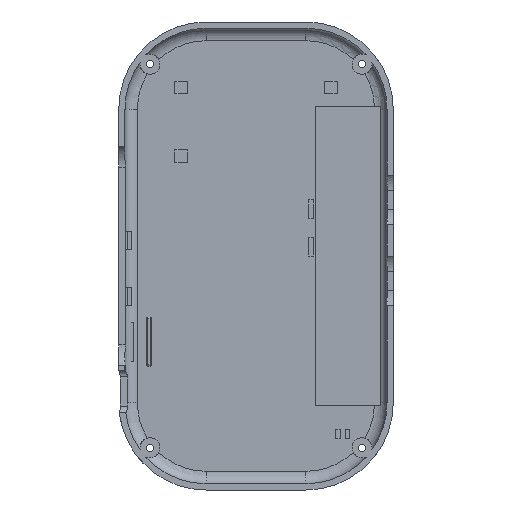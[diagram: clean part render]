
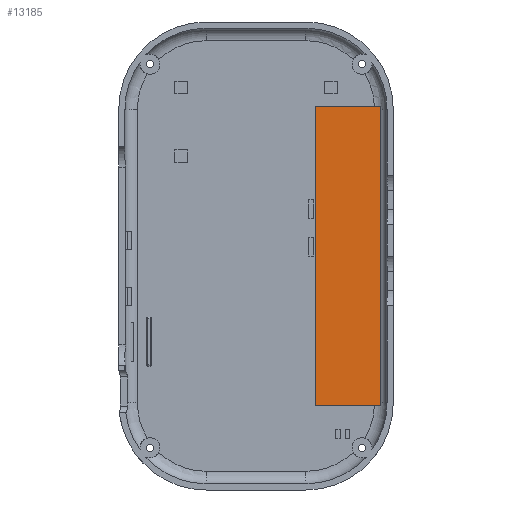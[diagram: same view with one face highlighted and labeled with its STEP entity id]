
A CAD part, front view. The second image highlights one B-rep face of the part: STEP entity #13185.
In plain terms, the highlighted planar face has unit normal (0, -1, 0).
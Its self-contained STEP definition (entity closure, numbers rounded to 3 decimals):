
#3919 = PLANE('',#3920);
#3920 = AXIS2_PLACEMENT_3D('',#3921,#3922,#3923);
#3921 = CARTESIAN_POINT('',(19.,10.5,48.));
#3922 = DIRECTION('',(0.,0.,1.));
#3923 = DIRECTION('',(1.,0.,-0.));
#3947 = PLANE('',#3948);
#3948 = AXIS2_PLACEMENT_3D('',#3949,#3950,#3951);
#3949 = CARTESIAN_POINT('',(19.,10.5,-48.));
#3950 = DIRECTION('',(1.,0.,0.));
#3951 = DIRECTION('',(0.,0.,1.));
#3975 = PLANE('',#3976);
#3976 = AXIS2_PLACEMENT_3D('',#3977,#3978,#3979);
#3977 = CARTESIAN_POINT('',(19.,10.5,-48.));
#3978 = DIRECTION('',(0.,0.,1.));
#3979 = DIRECTION('',(1.,0.,-0.));
#8897 = PLANE('',#8898);
#8898 = AXIS2_PLACEMENT_3D('',#8899,#8900,#8901);
#8899 = CARTESIAN_POINT('',(40.,10.5,-48.));
#8900 = DIRECTION('',(1.,0.,0.));
#8901 = DIRECTION('',(0.,0.,1.));
#8944 = VERTEX_POINT('',#8945);
#8945 = CARTESIAN_POINT('',(19.,10.5,-48.));
#8966 = EDGE_CURVE('',#8944,#8967,#8969,.T.);
#8967 = VERTEX_POINT('',#8968);
#8968 = CARTESIAN_POINT('',(40.,10.5,-48.));
#8969 = SURFACE_CURVE('',#8970,(#8974,#8981),.PCURVE_S1.);
#8970 = LINE('',#8971,#8972);
#8971 = CARTESIAN_POINT('',(19.,10.5,-48.));
#8972 = VECTOR('',#8973,1.);
#8973 = DIRECTION('',(1.,0.,0.));
#8974 = PCURVE('',#3975,#8975);
#8975 = DEFINITIONAL_REPRESENTATION('',(#8976),#8980);
#8976 = LINE('',#8977,#8978);
#8977 = CARTESIAN_POINT('',(0.,0.));
#8978 = VECTOR('',#8979,1.);
#8979 = DIRECTION('',(1.,0.));
#8980 = ( GEOMETRIC_REPRESENTATION_CONTEXT(2) 
PARAMETRIC_REPRESENTATION_CONTEXT() REPRESENTATION_CONTEXT('2D SPACE',''
  ) );
#8981 = PCURVE('',#8982,#8987);
#8982 = PLANE('',#8983);
#8983 = AXIS2_PLACEMENT_3D('',#8984,#8985,#8986);
#8984 = CARTESIAN_POINT('',(19.,10.5,-48.));
#8985 = DIRECTION('',(0.,1.,0.));
#8986 = DIRECTION('',(0.,-0.,1.));
#8987 = DEFINITIONAL_REPRESENTATION('',(#8988),#8992);
#8988 = LINE('',#8989,#8990);
#8989 = CARTESIAN_POINT('',(0.,0.));
#8990 = VECTOR('',#8991,1.);
#8991 = DIRECTION('',(0.,1.));
#8992 = ( GEOMETRIC_REPRESENTATION_CONTEXT(2) 
PARAMETRIC_REPRESENTATION_CONTEXT() REPRESENTATION_CONTEXT('2D SPACE',''
  ) );
#9021 = VERTEX_POINT('',#9022);
#9022 = CARTESIAN_POINT('',(19.,10.5,48.));
#9043 = EDGE_CURVE('',#8944,#9021,#9044,.T.);
#9044 = SURFACE_CURVE('',#9045,(#9049,#9056),.PCURVE_S1.);
#9045 = LINE('',#9046,#9047);
#9046 = CARTESIAN_POINT('',(19.,10.5,-48.));
#9047 = VECTOR('',#9048,1.);
#9048 = DIRECTION('',(0.,0.,1.));
#9049 = PCURVE('',#3947,#9050);
#9050 = DEFINITIONAL_REPRESENTATION('',(#9051),#9055);
#9051 = LINE('',#9052,#9053);
#9052 = CARTESIAN_POINT('',(0.,0.));
#9053 = VECTOR('',#9054,1.);
#9054 = DIRECTION('',(1.,0.));
#9055 = ( GEOMETRIC_REPRESENTATION_CONTEXT(2) 
PARAMETRIC_REPRESENTATION_CONTEXT() REPRESENTATION_CONTEXT('2D SPACE',''
  ) );
#9056 = PCURVE('',#8982,#9057);
#9057 = DEFINITIONAL_REPRESENTATION('',(#9058),#9062);
#9058 = LINE('',#9059,#9060);
#9059 = CARTESIAN_POINT('',(0.,0.));
#9060 = VECTOR('',#9061,1.);
#9061 = DIRECTION('',(1.,0.));
#9062 = ( GEOMETRIC_REPRESENTATION_CONTEXT(2) 
PARAMETRIC_REPRESENTATION_CONTEXT() REPRESENTATION_CONTEXT('2D SPACE',''
  ) );
#9260 = EDGE_CURVE('',#9021,#9261,#9263,.T.);
#9261 = VERTEX_POINT('',#9262);
#9262 = CARTESIAN_POINT('',(40.,10.5,48.));
#9263 = SURFACE_CURVE('',#9264,(#9268,#9275),.PCURVE_S1.);
#9264 = LINE('',#9265,#9266);
#9265 = CARTESIAN_POINT('',(19.,10.5,48.));
#9266 = VECTOR('',#9267,1.);
#9267 = DIRECTION('',(1.,0.,0.));
#9268 = PCURVE('',#3919,#9269);
#9269 = DEFINITIONAL_REPRESENTATION('',(#9270),#9274);
#9270 = LINE('',#9271,#9272);
#9271 = CARTESIAN_POINT('',(0.,0.));
#9272 = VECTOR('',#9273,1.);
#9273 = DIRECTION('',(1.,0.));
#9274 = ( GEOMETRIC_REPRESENTATION_CONTEXT(2) 
PARAMETRIC_REPRESENTATION_CONTEXT() REPRESENTATION_CONTEXT('2D SPACE',''
  ) );
#9275 = PCURVE('',#8982,#9276);
#9276 = DEFINITIONAL_REPRESENTATION('',(#9277),#9281);
#9277 = LINE('',#9278,#9279);
#9278 = CARTESIAN_POINT('',(96.,0.));
#9279 = VECTOR('',#9280,1.);
#9280 = DIRECTION('',(0.,1.));
#9281 = ( GEOMETRIC_REPRESENTATION_CONTEXT(2) 
PARAMETRIC_REPRESENTATION_CONTEXT() REPRESENTATION_CONTEXT('2D SPACE',''
  ) );
#13135 = EDGE_CURVE('',#8967,#9261,#13136,.T.);
#13136 = SURFACE_CURVE('',#13137,(#13141,#13148),.PCURVE_S1.);
#13137 = LINE('',#13138,#13139);
#13138 = CARTESIAN_POINT('',(40.,10.5,-48.));
#13139 = VECTOR('',#13140,1.);
#13140 = DIRECTION('',(0.,0.,1.));
#13141 = PCURVE('',#8897,#13142);
#13142 = DEFINITIONAL_REPRESENTATION('',(#13143),#13147);
#13143 = LINE('',#13144,#13145);
#13144 = CARTESIAN_POINT('',(0.,0.));
#13145 = VECTOR('',#13146,1.);
#13146 = DIRECTION('',(1.,0.));
#13147 = ( GEOMETRIC_REPRESENTATION_CONTEXT(2) 
PARAMETRIC_REPRESENTATION_CONTEXT() REPRESENTATION_CONTEXT('2D SPACE',''
  ) );
#13148 = PCURVE('',#8982,#13149);
#13149 = DEFINITIONAL_REPRESENTATION('',(#13150),#13154);
#13150 = LINE('',#13151,#13152);
#13151 = CARTESIAN_POINT('',(0.,21.));
#13152 = VECTOR('',#13153,1.);
#13153 = DIRECTION('',(1.,0.));
#13154 = ( GEOMETRIC_REPRESENTATION_CONTEXT(2) 
PARAMETRIC_REPRESENTATION_CONTEXT() REPRESENTATION_CONTEXT('2D SPACE',''
  ) );
#13185 = ADVANCED_FACE('',(#13186),#8982,.F.);
#13186 = FACE_BOUND('',#13187,.F.);
#13187 = EDGE_LOOP('',(#13188,#13189,#13190,#13191));
#13188 = ORIENTED_EDGE('',*,*,#8966,.F.);
#13189 = ORIENTED_EDGE('',*,*,#9043,.T.);
#13190 = ORIENTED_EDGE('',*,*,#9260,.T.);
#13191 = ORIENTED_EDGE('',*,*,#13135,.F.);
